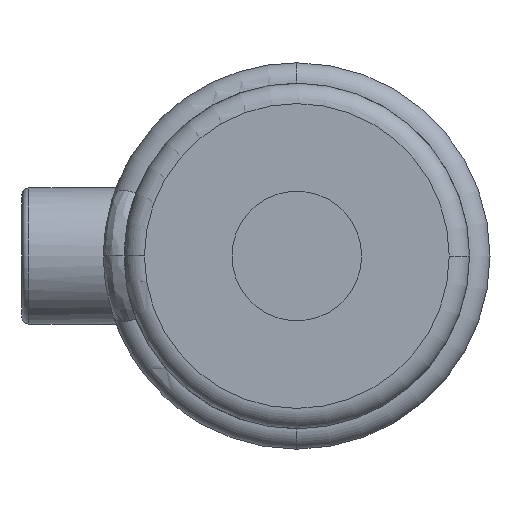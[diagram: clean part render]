
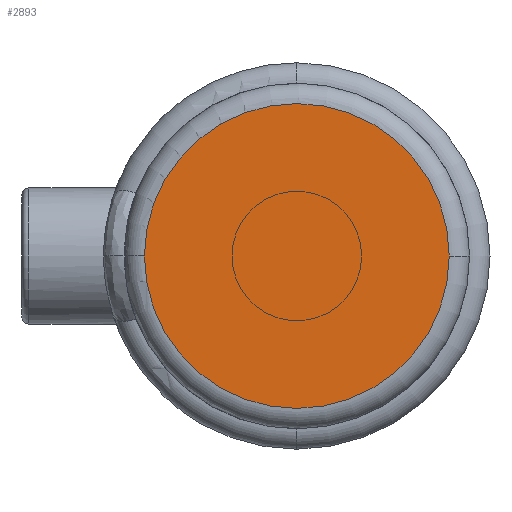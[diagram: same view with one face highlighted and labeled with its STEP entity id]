
A CAD part, left-side view. The second image highlights one B-rep face of the part: STEP entity #2893.
In plain terms, the highlighted planar face has unit normal (-1, 0, 0).
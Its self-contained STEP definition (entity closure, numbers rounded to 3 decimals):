
#121 = VERTEX_POINT ( 'NONE', #979 ) ;
#202 = DIRECTION ( 'NONE',  ( -1., 0., 0. ) ) ;
#940 = PLANE ( 'NONE',  #1215 ) ;
#979 = CARTESIAN_POINT ( 'NONE',  ( 0., -22.4, 0. ) ) ;
#1045 = CARTESIAN_POINT ( 'NONE',  ( 0., 0., 0. ) ) ;
#1215 = AXIS2_PLACEMENT_3D ( 'NONE', #1045, #3373, #1381 ) ;
#1381 = DIRECTION ( 'NONE',  ( 0., -1., 0. ) ) ;
#1479 = DIRECTION ( 'NONE',  ( -1., 0., 0. ) ) ;
#1706 = AXIS2_PLACEMENT_3D ( 'NONE', #3476, #1479, #3818 ) ;
#1737 = EDGE_CURVE ( 'NONE', #121, #3338, #1867, .T. ) ;
#1867 = CIRCLE ( 'NONE', #3698, 22.4 ) ;
#2192 = CARTESIAN_POINT ( 'NONE',  ( 0., 0., 0. ) ) ;
#2523 = ORIENTED_EDGE ( 'NONE', *, *, #3760, .T. ) ;
#2534 = DIRECTION ( 'NONE',  ( 0., -1., 0. ) ) ;
#2635 = CARTESIAN_POINT ( 'NONE',  ( 0., 22.4, 0. ) ) ;
#2741 = FACE_OUTER_BOUND ( 'NONE', #3196, .T. ) ;
#2893 = ADVANCED_FACE ( 'NONE', ( #2741 ), #940, .T. ) ;
#3101 = CIRCLE ( 'NONE', #1706, 22.4 ) ;
#3196 = EDGE_LOOP ( 'NONE', ( #3343, #2523 ) ) ;
#3338 = VERTEX_POINT ( 'NONE', #2635 ) ;
#3343 = ORIENTED_EDGE ( 'NONE', *, *, #1737, .T. ) ;
#3373 = DIRECTION ( 'NONE',  ( -1., 0., 0. ) ) ;
#3476 = CARTESIAN_POINT ( 'NONE',  ( 0., 0., 0. ) ) ;
#3698 = AXIS2_PLACEMENT_3D ( 'NONE', #2192, #202, #2534 ) ;
#3760 = EDGE_CURVE ( 'NONE', #3338, #121, #3101, .T. ) ;
#3818 = DIRECTION ( 'NONE',  ( 0., -1., 0. ) ) ;
